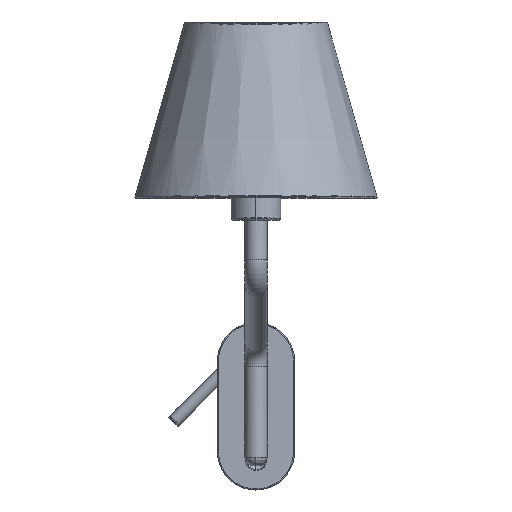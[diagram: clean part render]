
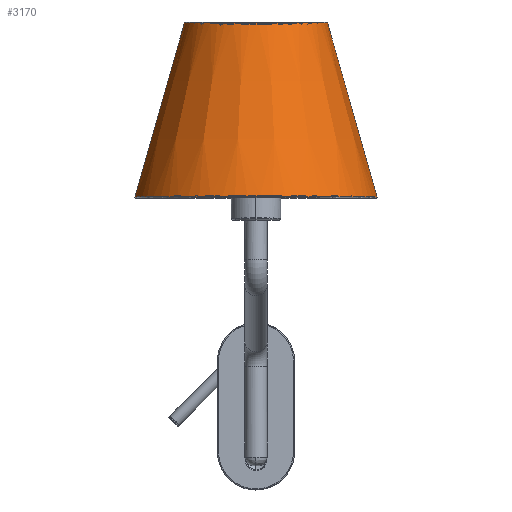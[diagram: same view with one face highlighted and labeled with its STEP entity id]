
A CAD part, top view. The second image highlights one B-rep face of the part: STEP entity #3170.
In plain terms, the highlighted conical face has half-angle 15.898 degrees and reference radius 105.462 mm.
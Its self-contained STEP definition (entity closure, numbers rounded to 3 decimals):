
#30=CONICAL_SURFACE('',#3450,105.462,0.277);
#264=B_SPLINE_CURVE_WITH_KNOTS('',3,(#7009,#7010,#7011,#7012,#7013,#7014,
#7015,#7016,#7017,#7018,#7019),.UNSPECIFIED.,.F.,.F.,(4,1,1,1,1,1,1,1,4),
(0.,0.125,0.25,0.375,0.5,0.625,0.75,0.875,1.),.UNSPECIFIED.);
#267=B_SPLINE_CURVE_WITH_KNOTS('',3,(#7241,#7242,#7243,#7244,#7245,#7246,
#7247,#7248,#7249,#7250,#7251,#7252,#7253),.UNSPECIFIED.,.F.,.F.,(4,1,1,
1,1,1,1,1,1,1,4),(0.,0.1,0.2,0.3,0.4,0.5,0.6,0.7,0.8,0.9,1.),
 .UNSPECIFIED.);
#648=FACE_OUTER_BOUND('',#861,.T.);
#861=EDGE_LOOP('',(#2820,#2821,#2822,#2823));
#1050=LINE('',#7239,#1233);
#1051=LINE('',#7254,#1234);
#1233=VECTOR('',#4139,304.8);
#1234=VECTOR('',#4140,304.8);
#1514=VERTEX_POINT('',#6802);
#1515=VERTEX_POINT('',#7008);
#1516=VERTEX_POINT('',#7238);
#1517=VERTEX_POINT('',#7240);
#1949=EDGE_CURVE('',#1515,#1514,#264,.T.);
#1952=EDGE_CURVE('',#1516,#1514,#1050,.T.);
#1953=EDGE_CURVE('',#1517,#1516,#267,.T.);
#1954=EDGE_CURVE('',#1515,#1517,#1051,.T.);
#2820=ORIENTED_EDGE('',*,*,#1952,.F.);
#2821=ORIENTED_EDGE('',*,*,#1953,.F.);
#2822=ORIENTED_EDGE('',*,*,#1954,.F.);
#2823=ORIENTED_EDGE('',*,*,#1949,.T.);
#3170=ADVANCED_FACE('',(#648),#30,.T.);
#3450=AXIS2_PLACEMENT_3D('',#7237,#4137,#4138);
#4137=DIRECTION('center_axis',(0.,0.,
-1.));
#4138=DIRECTION('ref_axis',(0.,1.,0.));
#4139=DIRECTION('',(-0.274,0.,0.962));
#4140=DIRECTION('',(-0.274,0.,-0.962));
#6802=CARTESIAN_POINT('',(64.962,0.,159.772));
#7008=CARTESIAN_POINT('',(-64.962,0.,159.772));
#7009=CARTESIAN_POINT('Ctrl Pts',(-64.962,0.,
159.772));
#7010=CARTESIAN_POINT('Ctrl Pts',(-65.047,8.538,159.772));
#7011=CARTESIAN_POINT('Ctrl Pts',(-61.54,25.491,159.772));
#7012=CARTESIAN_POINT('Ctrl Pts',(-47.141,47.135,159.772));
#7013=CARTESIAN_POINT('Ctrl Pts',(-25.504,61.578,159.772));
#7014=CARTESIAN_POINT('Ctrl Pts',(0.,66.653,
159.772));
#7015=CARTESIAN_POINT('Ctrl Pts',(25.504,61.578,159.772));
#7016=CARTESIAN_POINT('Ctrl Pts',(47.141,47.135,159.772));
#7017=CARTESIAN_POINT('Ctrl Pts',(61.54,25.491,159.772));
#7018=CARTESIAN_POINT('Ctrl Pts',(65.047,8.538,159.772));
#7019=CARTESIAN_POINT('Ctrl Pts',(64.962,0.,
159.772));
#7237=CARTESIAN_POINT('Origin',(0.,0.,
17.577));
#7238=CARTESIAN_POINT('',(109.962,0.,1.778));
#7239=CARTESIAN_POINT('',(109.962,0.,1.778));
#7240=CARTESIAN_POINT('',(-109.962,0.,1.778));
#7241=CARTESIAN_POINT('Ctrl Pts',(-109.962,0.,
1.778));
#7242=CARTESIAN_POINT('Ctrl Pts',(-110.023,11.534,1.778));
#7243=CARTESIAN_POINT('Ctrl Pts',(-106.286,34.534,1.778));
#7244=CARTESIAN_POINT('Ctrl Pts',(-90.444,65.708,1.778));
#7245=CARTESIAN_POINT('Ctrl Pts',(-65.704,90.436,1.778));
#7246=CARTESIAN_POINT('Ctrl Pts',(-34.544,106.314,1.778));
#7247=CARTESIAN_POINT('Ctrl Pts',(0.,111.785,
1.778));
#7248=CARTESIAN_POINT('Ctrl Pts',(34.544,106.314,1.778));
#7249=CARTESIAN_POINT('Ctrl Pts',(65.704,90.436,1.778));
#7250=CARTESIAN_POINT('Ctrl Pts',(90.444,65.708,1.778));
#7251=CARTESIAN_POINT('Ctrl Pts',(106.286,34.534,1.778));
#7252=CARTESIAN_POINT('Ctrl Pts',(110.023,11.534,1.778));
#7253=CARTESIAN_POINT('Ctrl Pts',(109.962,0.,
1.778));
#7254=CARTESIAN_POINT('',(-64.962,0.,159.772));
